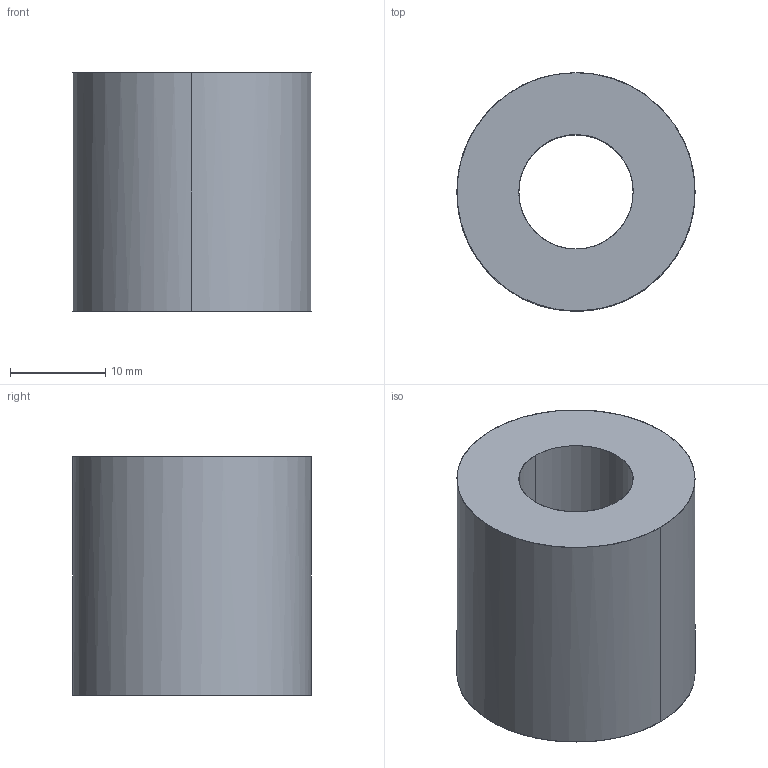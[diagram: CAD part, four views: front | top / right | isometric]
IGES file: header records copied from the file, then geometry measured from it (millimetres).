
Global section: file name: E:\UnigraphicsGraphicData\MISUMI_PRESS-PARTS\IGES\3d_swx25-25_00765_r00.igs; native system: NX V5.0; preprocessor: UGS NX IGES V5.0; author: MISUMI; date: 20110105.163301; units: millimetre
Bounding box: 25 x 25 x 25 mm (x, y, z)
Surface area: 3664 mm2 (no closed solid volume)
Topology: 0 solids, 0 shells, 6 faces, 48 edges, 48 vertices
Faces by surface type: bspline 6
